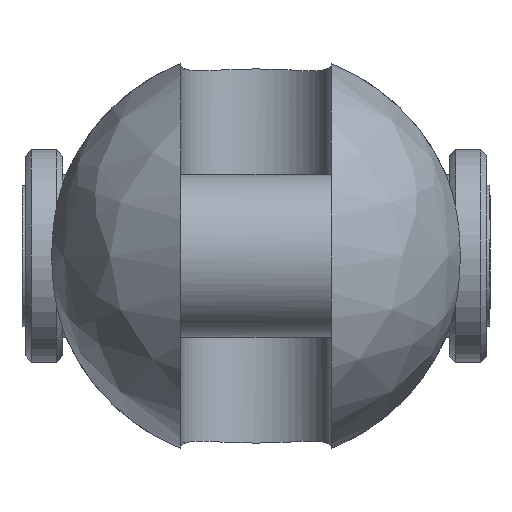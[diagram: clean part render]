
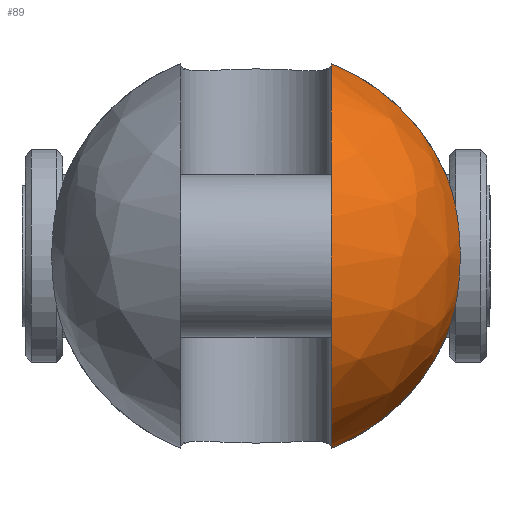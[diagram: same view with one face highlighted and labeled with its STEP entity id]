
A CAD part, left-side view. The second image highlights one B-rep face of the part: STEP entity #89.
In plain terms, the highlighted free-form (B-spline) face has degree [2, 2] with [9, 5] control points.
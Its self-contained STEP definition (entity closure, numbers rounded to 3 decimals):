
#89=ADVANCED_FACE('',(#164),#1301,.T.);
#164=FACE_OUTER_BOUND('',#249,.T.);
#249=EDGE_LOOP('',(#583,#584,#585,#586));
#583=ORIENTED_EDGE('',*,*,#809,.T.);
#584=ORIENTED_EDGE('',*,*,#831,.F.);
#585=ORIENTED_EDGE('',*,*,#849,.T.);
#586=ORIENTED_EDGE('',*,*,#825,.F.);
#809=EDGE_CURVE('',#1188,#1187,#1042,.T.);
#825=EDGE_CURVE('',#1188,#1200,#1052,.T.);
#831=EDGE_CURVE('',#1207,#1187,#1053,.T.);
#849=EDGE_CURVE('',#1207,#1200,#959,.T.);
#959=B_SPLINE_CURVE_WITH_KNOTS('',3,(#3089,#3090,#3091,#3092,#3093,#3094,
#3095,#3096,#3097,#3098,#3099,#3100,#3101,#3102),.UNSPECIFIED.,.F.,.F.,
(4,2,2,2,2,2,4),(-14.389,-13.135,-10.165,
-7.195,-4.224,-1.254,0.),.UNSPECIFIED.);
#1042=(
BOUNDED_CURVE()
B_SPLINE_CURVE(2,(#2906,#2907,#2908,#2909,#2910),.UNSPECIFIED.,.F.,.F.)
B_SPLINE_CURVE_WITH_KNOTS((3,2,3),(-48.288,-24.144,
0.),.UNSPECIFIED.)
CURVE()
GEOMETRIC_REPRESENTATION_ITEM()
RATIONAL_B_SPLINE_CURVE((1.,0.707,1.,0.707,1.))
REPRESENTATION_ITEM('')
);
#1052=(
BOUNDED_CURVE()
B_SPLINE_CURVE(2,(#2984,#2985,#2986),.UNSPECIFIED.,.F.,.F.)
B_SPLINE_CURVE_WITH_KNOTS((3,3),(0.,13.18),.UNSPECIFIED.)
CURVE()
GEOMETRIC_REPRESENTATION_ITEM()
RATIONAL_B_SPLINE_CURVE((1.,0.921,1.))
REPRESENTATION_ITEM('')
);
#1053=(
BOUNDED_CURVE()
B_SPLINE_CURVE(2,(#3009,#3010,#3011),.UNSPECIFIED.,.F.,.F.)
B_SPLINE_CURVE_WITH_KNOTS((3,3),(0.,13.18),.UNSPECIFIED.)
CURVE()
GEOMETRIC_REPRESENTATION_ITEM()
RATIONAL_B_SPLINE_CURVE((1.,0.921,1.))
REPRESENTATION_ITEM('')
);
#1187=VERTEX_POINT('',#2832);
#1188=VERTEX_POINT('',#2833);
#1200=VERTEX_POINT('',#2845);
#1207=VERTEX_POINT('',#2852);
#1301=(
BOUNDED_SURFACE()
B_SPLINE_SURFACE(2,2,((#2440,#2441,#2442,#2443,#2444),(#2445,#2446,#2447,
#2448,#2449),(#2450,#2451,#2452,#2453,#2454),(#2455,#2456,#2457,#2458,#2459),
(#2460,#2461,#2462,#2463,#2464),(#2465,#2466,#2467,#2468,#2469),(#2470,
#2471,#2472,#2473,#2474),(#2475,#2476,#2477,#2478,#2479),(#2480,#2481,#2482,
#2483,#2484)),.UNSPECIFIED.,.T.,.F.,.F.)
B_SPLINE_SURFACE_WITH_KNOTS((3,2,2,2,3),(3,2,3),(0.,1.571,3.142,
4.712,6.283),(-1.571,0.,1.571),
 .UNSPECIFIED.)
GEOMETRIC_REPRESENTATION_ITEM()
RATIONAL_B_SPLINE_SURFACE(((1.,0.707,1.,0.707,1.),
(0.707,0.5,0.707,0.5,0.707),(1.,0.707,
1.,0.707,1.),(0.707,0.5,0.707,0.5,0.707),
(1.,0.707,1.,0.707,1.),(0.707,0.5,0.707,
0.5,0.707),(1.,0.707,1.,0.707,1.),(0.707,
0.5,0.707,0.5,0.707),(1.,0.707,1.,0.707,
1.)))
REPRESENTATION_ITEM('')
SURFACE()
);
#2440=CARTESIAN_POINT('',(-23.5,0.,0.));
#2441=CARTESIAN_POINT('',(-23.5,16.5,0.));
#2442=CARTESIAN_POINT('',(-7.,16.5,0.));
#2443=CARTESIAN_POINT('',(9.5,16.5,0.));
#2444=CARTESIAN_POINT('',(9.5,0.,0.));
#2445=CARTESIAN_POINT('',(-23.5,0.,0.));
#2446=CARTESIAN_POINT('',(-23.5,16.5,16.5));
#2447=CARTESIAN_POINT('',(-7.,16.5,16.5));
#2448=CARTESIAN_POINT('',(9.5,16.5,16.5));
#2449=CARTESIAN_POINT('',(9.5,0.,0.));
#2450=CARTESIAN_POINT('',(-23.5,0.,0.));
#2451=CARTESIAN_POINT('',(-23.5,0.,16.5));
#2452=CARTESIAN_POINT('',(-7.,0.,16.5));
#2453=CARTESIAN_POINT('',(9.5,0.,16.5));
#2454=CARTESIAN_POINT('',(9.5,0.,0.));
#2455=CARTESIAN_POINT('',(-23.5,0.,0.));
#2456=CARTESIAN_POINT('',(-23.5,-16.5,16.5));
#2457=CARTESIAN_POINT('',(-7.,-16.5,16.5));
#2458=CARTESIAN_POINT('',(9.5,-16.5,16.5));
#2459=CARTESIAN_POINT('',(9.5,0.,0.));
#2460=CARTESIAN_POINT('',(-23.5,0.,0.));
#2461=CARTESIAN_POINT('',(-23.5,-16.5,0.));
#2462=CARTESIAN_POINT('',(-7.,-16.5,0.));
#2463=CARTESIAN_POINT('',(9.5,-16.5,0.));
#2464=CARTESIAN_POINT('',(9.5,0.,0.));
#2465=CARTESIAN_POINT('',(-23.5,0.,0.));
#2466=CARTESIAN_POINT('',(-23.5,-16.5,-16.5));
#2467=CARTESIAN_POINT('',(-7.,-16.5,-16.5));
#2468=CARTESIAN_POINT('',(9.5,-16.5,-16.5));
#2469=CARTESIAN_POINT('',(9.5,0.,0.));
#2470=CARTESIAN_POINT('',(-23.5,0.,0.));
#2471=CARTESIAN_POINT('',(-23.5,0.,-16.5));
#2472=CARTESIAN_POINT('',(-7.,0.,-16.5));
#2473=CARTESIAN_POINT('',(9.5,0.,-16.5));
#2474=CARTESIAN_POINT('',(9.5,0.,0.));
#2475=CARTESIAN_POINT('',(-23.5,0.,0.));
#2476=CARTESIAN_POINT('',(-23.5,16.5,-16.5));
#2477=CARTESIAN_POINT('',(-7.,16.5,-16.5));
#2478=CARTESIAN_POINT('',(9.5,16.5,-16.5));
#2479=CARTESIAN_POINT('',(9.5,0.,0.));
#2480=CARTESIAN_POINT('',(-23.5,0.,0.));
#2481=CARTESIAN_POINT('',(-23.5,16.5,0.));
#2482=CARTESIAN_POINT('',(-7.,16.5,0.));
#2483=CARTESIAN_POINT('',(9.5,16.5,0.));
#2484=CARTESIAN_POINT('',(9.5,0.,0.));
#2832=CARTESIAN_POINT('',(-7.,-6.,-15.37));
#2833=CARTESIAN_POINT('',(-7.,-6.,15.37));
#2845=CARTESIAN_POINT('',(-7.,-15.199,6.423));
#2852=CARTESIAN_POINT('',(-7.,-15.199,-6.423));
#2906=CARTESIAN_POINT('',(-7.,-6.,15.37));
#2907=CARTESIAN_POINT('',(-22.37,-6.,15.37));
#2908=CARTESIAN_POINT('',(-22.37,-6.,0.));
#2909=CARTESIAN_POINT('',(-22.37,-6.,-15.37));
#2910=CARTESIAN_POINT('',(-7.,-6.,-15.37));
#2984=CARTESIAN_POINT('',(-7.,-6.,15.37));
#2985=CARTESIAN_POINT('',(-7.,-12.488,12.838));
#2986=CARTESIAN_POINT('',(-7.,-15.199,6.423));
#3009=CARTESIAN_POINT('',(-7.,-15.199,-6.423));
#3010=CARTESIAN_POINT('',(-7.,-12.488,-12.838));
#3011=CARTESIAN_POINT('',(-7.,-6.,-15.37));
#3089=CARTESIAN_POINT('',(-7.,-15.199,-6.423));
#3090=CARTESIAN_POINT('',(-7.269,-15.323,-6.13));
#3091=CARTESIAN_POINT('',(-7.517,-15.435,-5.822));
#3092=CARTESIAN_POINT('',(-8.27,-15.774,-4.764));
#3093=CARTESIAN_POINT('',(-8.735,-15.978,-3.868));
#3094=CARTESIAN_POINT('',(-9.35,-16.246,-1.958));
#3095=CARTESIAN_POINT('',(-9.5,-16.31,-0.944));
#3096=CARTESIAN_POINT('',(-9.5,-16.31,0.944));
#3097=CARTESIAN_POINT('',(-9.35,-16.246,1.958));
#3098=CARTESIAN_POINT('',(-8.735,-15.978,3.868));
#3099=CARTESIAN_POINT('',(-8.27,-15.774,4.764));
#3100=CARTESIAN_POINT('',(-7.517,-15.435,5.822));
#3101=CARTESIAN_POINT('',(-7.269,-15.323,6.13));
#3102=CARTESIAN_POINT('',(-7.,-15.199,6.423));
